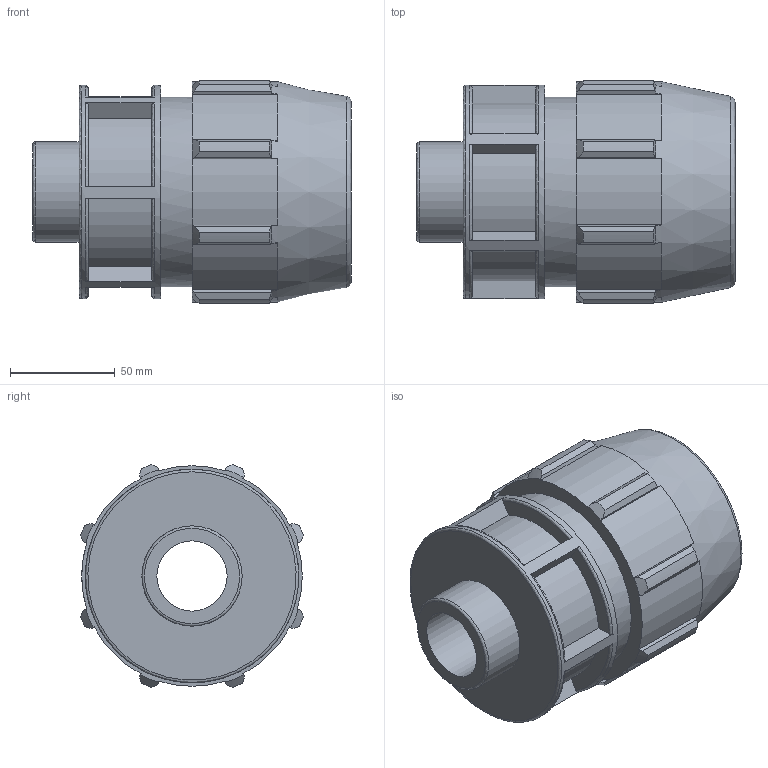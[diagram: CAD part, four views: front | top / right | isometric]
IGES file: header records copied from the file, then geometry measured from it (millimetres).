
Global section: file name: 0702M0T20015.ipt; native system: Autodesk Inventor 2019; preprocessor: unknown; author: KIM; date: 20210826.124448; units: inch
Bounding box: 151.89 x 106.35 x 106.35 mm (x, y, z)
Volume: 623935.2 mm3; surface area: 95915 mm2
Topology: 1 solids, 1 shells, 124 faces, 343 edges, 231 vertices
Faces by surface type: plane 63, cylinder 25, revolution 19, cone 17
Full cylindrical faces by diameter (mm): 47.803 x1, 90.424 x1, 101.727 x1
